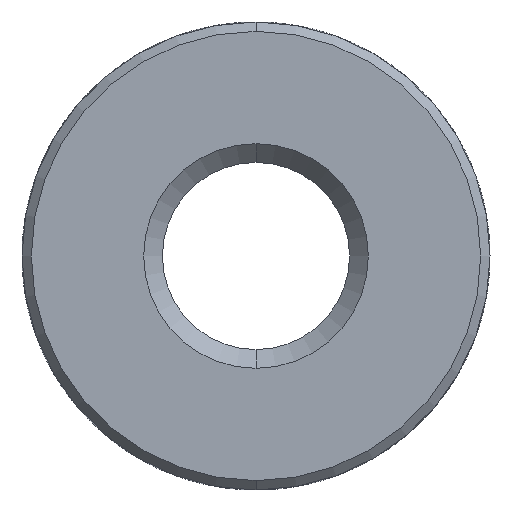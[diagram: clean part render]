
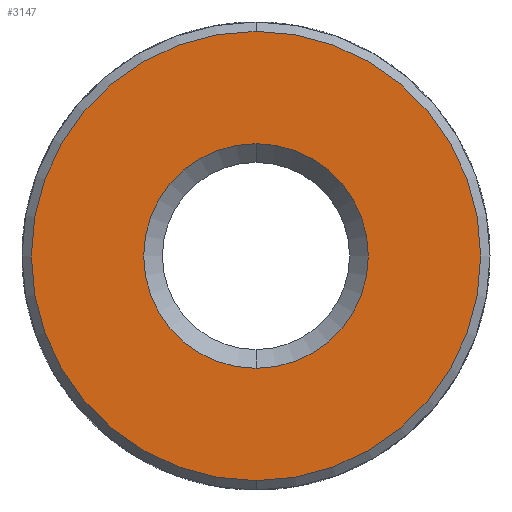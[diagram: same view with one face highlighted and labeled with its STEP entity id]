
A CAD part, front view. The second image highlights one B-rep face of the part: STEP entity #3147.
In plain terms, the highlighted planar face has unit normal (0, -1, 0).
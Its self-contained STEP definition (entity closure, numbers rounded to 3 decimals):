
#340 = ORIENTED_EDGE ( 'NONE', *, *, #2635, .T. ) ;
#579 = CARTESIAN_POINT ( 'NONE',  ( 0., -4.8, 0. ) ) ;
#659 = ORIENTED_EDGE ( 'NONE', *, *, #1113, .T. ) ;
#780 = DIRECTION ( 'NONE',  ( 0., -1., 0. ) ) ;
#953 = DIRECTION ( 'NONE',  ( 0., -1., 0. ) ) ;
#998 = DIRECTION ( 'NONE',  ( 0., 1., 0. ) ) ;
#1113 = EDGE_CURVE ( 'NONE', #3486, #2838, #4961, .T. ) ;
#1196 = CIRCLE ( 'NONE', #5234, 2.4 ) ;
#1407 = ORIENTED_EDGE ( 'NONE', *, *, #3286, .T. ) ;
#1448 = CARTESIAN_POINT ( 'NONE',  ( 0., -4.8, 1.2 ) ) ;
#1695 = AXIS2_PLACEMENT_3D ( 'NONE', #579, #998, #5106 ) ;
#1732 = DIRECTION ( 'NONE',  ( 0., 0., -1. ) ) ;
#1831 = DIRECTION ( 'NONE',  ( 0., 0., -1. ) ) ;
#2151 = CIRCLE ( 'NONE', #4360, 2.4 ) ;
#2347 = FACE_BOUND ( 'NONE', #4883, .T. ) ;
#2553 = PLANE ( 'NONE',  #3901 ) ;
#2555 = VERTEX_POINT ( 'NONE', #3840 ) ;
#2627 = DIRECTION ( 'NONE',  ( 0., 1., 0. ) ) ;
#2635 = EDGE_CURVE ( 'NONE', #2838, #3486, #5129, .T. ) ;
#2838 = VERTEX_POINT ( 'NONE', #1448 ) ;
#3094 = AXIS2_PLACEMENT_3D ( 'NONE', #3916, #2627, #1831 ) ;
#3104 = EDGE_LOOP ( 'NONE', ( #5270, #1407 ) ) ;
#3147 = ADVANCED_FACE ( 'NONE', ( #3841, #2347 ), #2553, .T. ) ;
#3286 = EDGE_CURVE ( 'NONE', #2555, #4801, #2151, .T. ) ;
#3486 = VERTEX_POINT ( 'NONE', #4987 ) ;
#3651 = CARTESIAN_POINT ( 'NONE',  ( 0., -4.8, 0. ) ) ;
#3668 = DIRECTION ( 'NONE',  ( 0., 0., -1. ) ) ;
#3840 = CARTESIAN_POINT ( 'NONE',  ( 0., -4.8, -2.4 ) ) ;
#3841 = FACE_OUTER_BOUND ( 'NONE', #3104, .T. ) ;
#3901 = AXIS2_PLACEMENT_3D ( 'NONE', #4590, #4995, #4608 ) ;
#3903 = CARTESIAN_POINT ( 'NONE',  ( 0., -4.8, 0. ) ) ;
#3916 = CARTESIAN_POINT ( 'NONE',  ( 0., -4.8, 0. ) ) ;
#4268 = EDGE_CURVE ( 'NONE', #4801, #2555, #1196, .T. ) ;
#4360 = AXIS2_PLACEMENT_3D ( 'NONE', #3903, #953, #1732 ) ;
#4590 = CARTESIAN_POINT ( 'NONE',  ( 0., -4.8, 2.5 ) ) ;
#4608 = DIRECTION ( 'NONE',  ( 0., 0., -1. ) ) ;
#4801 = VERTEX_POINT ( 'NONE', #4870 ) ;
#4870 = CARTESIAN_POINT ( 'NONE',  ( 0., -4.8, 2.4 ) ) ;
#4883 = EDGE_LOOP ( 'NONE', ( #659, #340 ) ) ;
#4961 = CIRCLE ( 'NONE', #3094, 1.2 ) ;
#4987 = CARTESIAN_POINT ( 'NONE',  ( 0., -4.8, -1.2 ) ) ;
#4995 = DIRECTION ( 'NONE',  ( 0., -1., 0. ) ) ;
#5106 = DIRECTION ( 'NONE',  ( 0., 0., -1. ) ) ;
#5129 = CIRCLE ( 'NONE', #1695, 1.2 ) ;
#5234 = AXIS2_PLACEMENT_3D ( 'NONE', #3651, #780, #3668 ) ;
#5270 = ORIENTED_EDGE ( 'NONE', *, *, #4268, .T. ) ;
